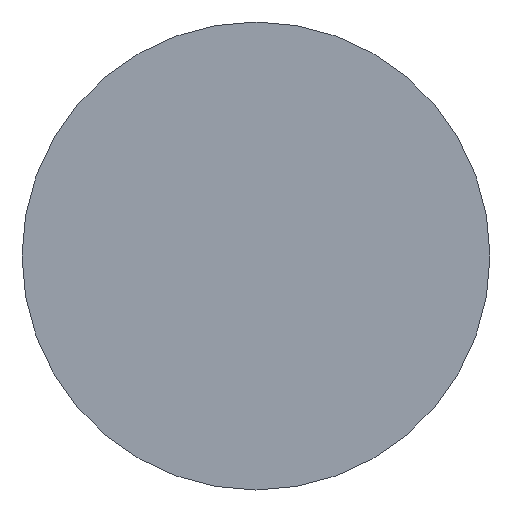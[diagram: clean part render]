
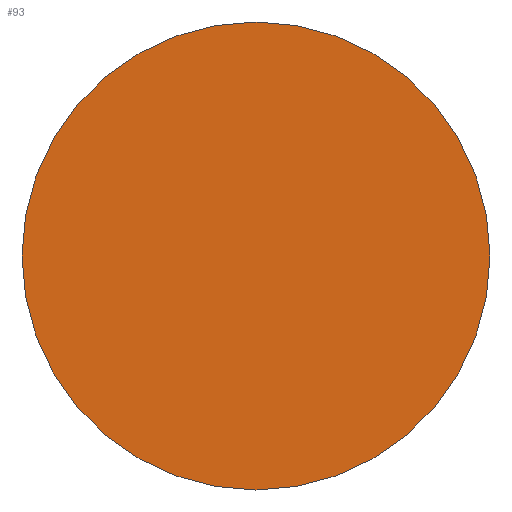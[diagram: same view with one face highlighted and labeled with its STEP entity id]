
A CAD part, left-side view. The second image highlights one B-rep face of the part: STEP entity #93.
In plain terms, the highlighted planar face has unit normal (-1, 0, 0).
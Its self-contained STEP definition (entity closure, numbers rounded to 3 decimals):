
#10 = AXIS2_PLACEMENT_3D ( 'NONE', #73, #57, #56 ) ;
#11 = EDGE_CURVE ( 'NONE', #89, #90, #131, .T. ) ;
#12 = AXIS2_PLACEMENT_3D ( 'NONE', #70, #68, #67 ) ;
#14 = EDGE_CURVE ( 'NONE', #90, #89, #129, .T. ) ;
#17 = AXIS2_PLACEMENT_3D ( 'NONE', #75, #72, #71 ) ;
#56 = DIRECTION ( 'NONE',  ( 0., 0., 1. ) ) ;
#57 = DIRECTION ( 'NONE',  ( -1., 0., 0. ) ) ;
#60 = PLANE ( 'NONE',  #10 ) ;
#63 = CARTESIAN_POINT ( 'NONE',  ( -374.5, 0., 5.5 ) ) ;
#67 = DIRECTION ( 'NONE',  ( 0., 0., 1. ) ) ;
#68 = DIRECTION ( 'NONE',  ( -1., 0., 0. ) ) ;
#69 = CARTESIAN_POINT ( 'NONE',  ( -374.5, 0., -5.5 ) ) ;
#70 = CARTESIAN_POINT ( 'NONE',  ( -374.5, 0., 0. ) ) ;
#71 = DIRECTION ( 'NONE',  ( 0., 0., 1. ) ) ;
#72 = DIRECTION ( 'NONE',  ( -1., 0., 0. ) ) ;
#73 = CARTESIAN_POINT ( 'NONE',  ( -374.5, 0., 0. ) ) ;
#75 = CARTESIAN_POINT ( 'NONE',  ( -374.5, 0., 0. ) ) ;
#89 = VERTEX_POINT ( 'NONE', #69 ) ;
#90 = VERTEX_POINT ( 'NONE', #63 ) ;
#93 = ADVANCED_FACE ( 'NONE', ( #125 ), #60, .T. ) ;
#99 = EDGE_LOOP ( 'NONE', ( #114, #121 ) ) ;
#114 = ORIENTED_EDGE ( 'NONE', *, *, #14, .T. ) ;
#121 = ORIENTED_EDGE ( 'NONE', *, *, #11, .T. ) ;
#125 = FACE_OUTER_BOUND ( 'NONE', #99, .T. ) ;
#129 = CIRCLE ( 'NONE', #12, 5.5 ) ;
#131 = CIRCLE ( 'NONE', #17, 5.5 ) ;
